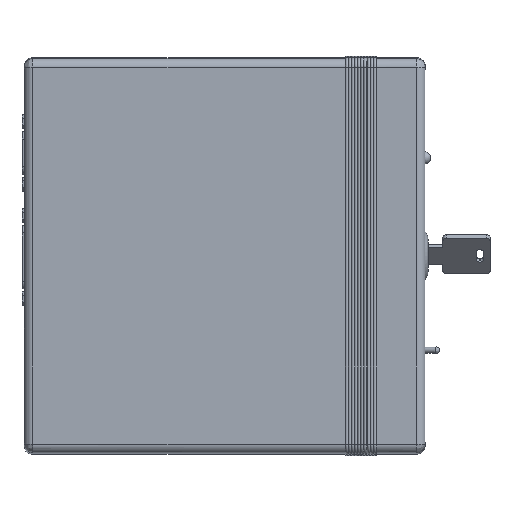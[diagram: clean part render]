
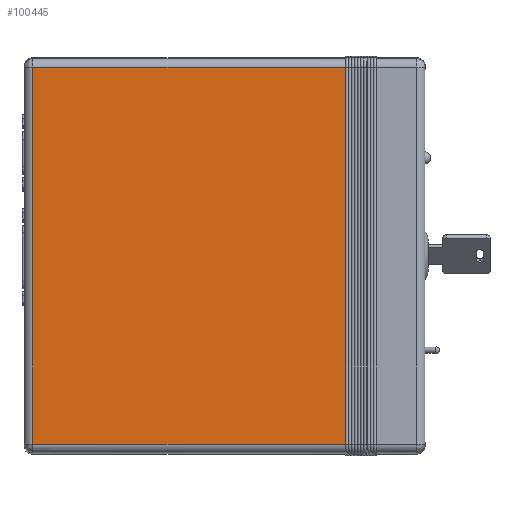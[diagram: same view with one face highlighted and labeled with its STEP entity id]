
A CAD part, top view. The second image highlights one B-rep face of the part: STEP entity #100445.
In plain terms, the highlighted planar face has unit normal (0, 0, 1).
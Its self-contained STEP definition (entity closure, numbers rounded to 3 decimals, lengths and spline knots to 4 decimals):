
#2485 = DIRECTION ( 'NONE',  ( 0., 0., 1. ) ) ;
#7871 = VERTEX_POINT ( 'NONE', #88236 ) ;
#17827 = DIRECTION ( 'NONE',  ( 0., 1., 0. ) ) ;
#21672 = EDGE_CURVE ( 'NONE', #154018, #138399, #100271, .T. ) ;
#23239 = ORIENTED_EDGE ( 'NONE', *, *, #52721, .F. ) ;
#33308 = ORIENTED_EDGE ( 'NONE', *, *, #21672, .F. ) ;
#37765 = DIRECTION ( 'NONE',  ( 1., 0., 0. ) ) ;
#39501 = CARTESIAN_POINT ( 'NONE',  ( 2.067, 6.1435, 7.685 ) ) ;
#44056 = VECTOR ( 'NONE', #37765, 39.3701 ) ;
#44641 = EDGE_CURVE ( 'NONE', #120127, #138399, #80280, .T. ) ;
#50109 = CARTESIAN_POINT ( 'NONE',  ( 3.9642, 0.0787, 7.685 ) ) ;
#52721 = EDGE_CURVE ( 'NONE', #120127, #7871, #162843, .T. ) ;
#54151 = DIRECTION ( 'NONE',  ( -1., 0., 0. ) ) ;
#79181 = ORIENTED_EDGE ( 'NONE', *, *, #44641, .T. ) ;
#80280 = LINE ( 'NONE', #130499, #161602 ) ;
#81521 = LINE ( 'NONE', #117793, #90948 ) ;
#83045 = VECTOR ( 'NONE', #54151, 39.3701 ) ;
#83529 = ORIENTED_EDGE ( 'NONE', *, *, #122450, .F. ) ;
#88236 = CARTESIAN_POINT ( 'NONE',  ( -0.9517, 0.0787, 7.685 ) ) ;
#89748 = CARTESIAN_POINT ( 'NONE',  ( 3.9642, 0.0787, 7.685 ) ) ;
#90948 = VECTOR ( 'NONE', #131761, 39.3701 ) ;
#100271 = LINE ( 'NONE', #150489, #44056 ) ;
#100445 = ADVANCED_FACE ( 'NONE', ( #152211 ), #141478, .T. ) ;
#117793 = CARTESIAN_POINT ( 'NONE',  ( -0.9517, 0.0787, 7.685 ) ) ;
#117816 = EDGE_LOOP ( 'NONE', ( #79181, #33308, #83529, #23239 ) ) ;
#120127 = VERTEX_POINT ( 'NONE', #89748 ) ;
#122450 = EDGE_CURVE ( 'NONE', #7871, #154018, #81521, .T. ) ;
#126062 = CARTESIAN_POINT ( 'NONE',  ( 3.9642, 6.0076, 7.685 ) ) ;
#130387 = CARTESIAN_POINT ( 'NONE',  ( -0.9517, 6.0076, 7.685 ) ) ;
#130499 = CARTESIAN_POINT ( 'NONE',  ( 3.9642, 0.0787, 7.685 ) ) ;
#131761 = DIRECTION ( 'NONE',  ( 0., 1., 0. ) ) ;
#138399 = VERTEX_POINT ( 'NONE', #126062 ) ;
#141478 = PLANE ( 'NONE',  #144860 ) ;
#144860 = AXIS2_PLACEMENT_3D ( 'NONE', #39501, #2485, #150596 ) ;
#150489 = CARTESIAN_POINT ( 'NONE',  ( -0.9517, 6.0076, 7.685 ) ) ;
#150596 = DIRECTION ( 'NONE',  ( -1., 0., 0. ) ) ;
#152211 = FACE_OUTER_BOUND ( 'NONE', #117816, .T. ) ;
#154018 = VERTEX_POINT ( 'NONE', #130387 ) ;
#161602 = VECTOR ( 'NONE', #17827, 39.3701 ) ;
#162843 = LINE ( 'NONE', #50109, #83045 ) ;
